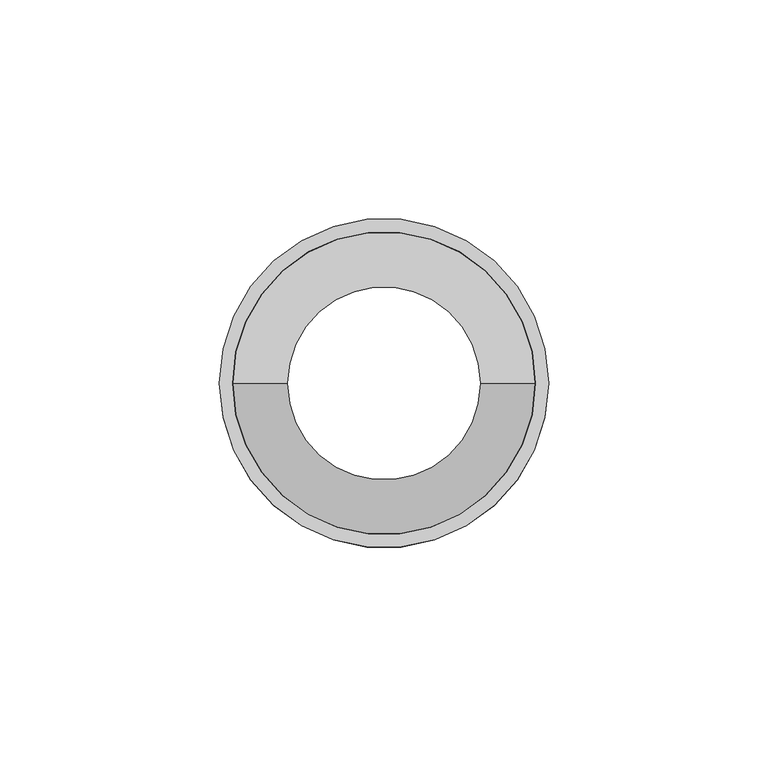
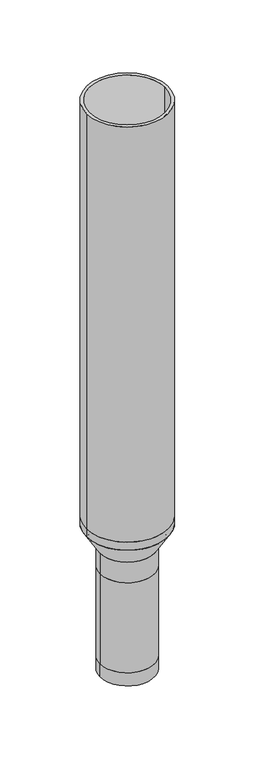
"""IFC4 building model written with IfcOpenShell, lengths in millimetres: pipe fitting geometry, Superdrain Concealed Trap extension : Superdrain Concealed Trap extension DN 50."""

from ifc_helpers import new_model, si_unit, point, frame, origin, origin_with_axes, origin_2d, place, context, project, spatial, polyline, circle_curve, trimmed, segment, composite_curve, outline, extrude, source, transform, mapped, element, save
from ifc_brep_helpers import plane_surface, revolved_surface, advanced_brep


def pipe_fitting_c942d72f(model_context):
    return source(origin(), model_context, "Body", "SolidModel", [
        advanced_brep(
        [(37.5, 0.0, 140.0), (-37.5, 0.0, 140.0), (-34.5, 0.0, 140.0), (34.5, 0.0, 140.0), (25.0, 0.0, 120.0), (-25.0, 0.0, 120.0), (22.0, 0.0, 120.0), (-22.0, 0.0, 120.0)],
        [
            (0, 1, circle_curve(frame((0.0, 0.0, 140.0), z_axis=(0.0, 0.0, 1.0), x_axis=(-1.0, 0.0, 0.0)), 37.5)),
            (1, 2),
            (2, 3, circle_curve(frame((0.0, 0.0, 140.0), z_axis=(0.0, 0.0, -1.0), x_axis=(-1.0, 0.0, 0.0)), 34.5)),
            (3, 0),
            (1, 0, circle_curve(frame((0.0, 0.0, 140.0), z_axis=(0.0, 0.0, 1.0), x_axis=(-1.0, 0.0, 0.0)), 37.5)),
            (3, 2, circle_curve(frame((0.0, 0.0, 140.0), z_axis=(0.0, 0.0, -1.0), x_axis=(-1.0, 0.0, 0.0)), 34.5)),
            (4, 5, circle_curve(frame((0.0, 0.0, 120.0), z_axis=(0.0, 0.0, 1.0), x_axis=(-1.0, 0.0, 0.0)), 25.0)),
            (5, 1),
            (0, 4),
            (5, 4, circle_curve(frame((0.0, 0.0, 120.0), z_axis=(0.0, 0.0, 1.0), x_axis=(-1.0, 0.0, 0.0)), 25.0)),
            (6, 7, circle_curve(frame((0.0, 0.0, 120.0), z_axis=(0.0, 0.0, 1.0), x_axis=(-1.0, 0.0, 0.0)), 22.0)),
            (7, 5),
            (4, 6),
            (7, 6, circle_curve(frame((0.0, 0.0, 120.0), z_axis=(0.0, 0.0, 1.0), x_axis=(-1.0, 0.0, 0.0)), 22.0)),
            (2, 7),
            (6, 3),
        ],
        [
            plane_surface(frame((0.0, 0.0, 140.0), z_axis=(0.0, 0.0, 1.0), x_axis=(-1.0, 0.0, 0.0))),
            revolved_surface(polyline([(-37.5, 0.0, 140.0), (-25.0, 0.0, 120.0)]), (0.0, 0.0, -78.0), (0.0, 0.0, -1.0)),
            plane_surface(frame((0.0, 0.0, 120.0), z_axis=(0.0, 0.0, -1.0), x_axis=(-1.0, 0.0, 0.0))),
            revolved_surface(polyline([(-22.0, 0.0, 120.0), (-34.5, 0.0, 140.0)]), (0.0, 0.0, -78.0), (0.0, 0.0, -1.0)),
        ],
        [
            (0, [[1, 2, 3, 4]]),
            (0, [[5, -4, 6, -2]]),
            (1, [[7, 8, -1, 9]]),
            (1, [[10, -9, -5, -8]]),
            (2, [[11, 12, -7, 13]]),
            (2, [[14, -13, -10, -12]]),
            (3, [[-3, 15, -11, 16]]),
            (3, [[-6, -16, -14, -15]]),
        ],
    ),
        extrude(outline(composite_curve([segment(trimmed(circle_curve(origin_2d(), 37.5), [point((37.5, 0.0))], [point((-37.5, 0.0))], False, "CARTESIAN"), True, "CONTINUOUS"), segment(trimmed(circle_curve(origin_2d(), 37.5), [point((-37.5, 0.0))], [point((37.5, 0.0))], False, "CARTESIAN"), True, "CONTINUOUS")], self_intersect=False), holes=[composite_curve([segment(trimmed(circle_curve(origin_2d(), 34.5), [point((34.5, 0.0))], [point((-34.5, 0.0))], True, "CARTESIAN"), True, "CONTINUOUS"), segment(trimmed(circle_curve(origin_2d(), 34.5), [point((-34.5, 0.0))], [point((34.5, 0.0))], True, "CARTESIAN"), True, "CONTINUOUS")], self_intersect=False)]), frame((0.0, 0.0, 148.0), z_axis=(0.0, 0.0, 1.0), x_axis=(1.0, 0.0, 0.0)), (0.0, 0.0, 1.0), 402.0),
        extrude(outline(composite_curve([segment(trimmed(circle_curve(origin_2d(), 37.5), [point((37.5, 0.0))], [point((-37.5, 0.0))], False, "CARTESIAN"), True, "CONTINUOUS"), segment(trimmed(circle_curve(origin_2d(), 37.5), [point((-37.5, 0.0))], [point((37.5, 0.0))], False, "CARTESIAN"), True, "CONTINUOUS")], self_intersect=False), holes=[composite_curve([segment(trimmed(circle_curve(origin_2d(), 34.5), [point((34.5, 0.0))], [point((-34.5, 0.0))], True, "CARTESIAN"), True, "CONTINUOUS"), segment(trimmed(circle_curve(origin_2d(), 34.5), [point((-34.5, 0.0))], [point((34.5, 0.0))], True, "CARTESIAN"), True, "CONTINUOUS")], self_intersect=False)]), frame((0.0, 0.0, 140.0), z_axis=(0.0, 0.0, 1.0), x_axis=(1.0, 0.0, 0.0)), (0.0, 0.0, 1.0), 8.0),
        extrude(outline(composite_curve([segment(trimmed(circle_curve(origin_2d(), 25.0), [point((25.0, 0.0))], [point((-25.0, 0.0))], False, "CARTESIAN"), True, "CONTINUOUS"), segment(trimmed(circle_curve(origin_2d(), 25.0), [point((-25.0, 0.0))], [point((25.0, 0.0))], False, "CARTESIAN"), True, "CONTINUOUS")], self_intersect=False), holes=[composite_curve([segment(trimmed(circle_curve(origin_2d(), 22.0), [point((22.0, 0.0))], [point((-22.0, 0.0))], True, "CARTESIAN"), True, "CONTINUOUS"), segment(trimmed(circle_curve(origin_2d(), 22.0), [point((-22.0, 0.0))], [point((22.0, 0.0))], True, "CARTESIAN"), True, "CONTINUOUS")], self_intersect=False)]), frame((0.0, 0.0, 100.0), z_axis=(0.0, 0.0, 1.0), x_axis=(1.0, 0.0, 0.0)), (0.0, 0.0, 1.0), 20.0),
        extrude(outline(composite_curve([segment(trimmed(circle_curve(origin_2d(), 25.0), [point((25.0, 0.0))], [point((-25.0, 0.0))], False, "CARTESIAN"), True, "CONTINUOUS"), segment(trimmed(circle_curve(origin_2d(), 25.0), [point((-25.0, 0.0))], [point((25.0, 0.0))], False, "CARTESIAN"), True, "CONTINUOUS")], self_intersect=False), holes=[composite_curve([segment(trimmed(circle_curve(origin_2d(), 22.0), [point((22.0, 0.0))], [point((-22.0, 0.0))], True, "CARTESIAN"), True, "CONTINUOUS"), segment(trimmed(circle_curve(origin_2d(), 22.0), [point((-22.0, 0.0))], [point((22.0, 0.0))], True, "CARTESIAN"), True, "CONTINUOUS")], self_intersect=False)]), frame((0.0, 0.0, 12.7902896), z_axis=(0.0, 0.0, 1.0), x_axis=(1.0, 0.0, 0.0)), (0.0, 0.0, 1.0), 87.2097104),
        extrude(outline(composite_curve([segment(trimmed(circle_curve(origin_2d(), 25.0), [point((-25.0, 0.0))], [point((25.0, 0.0))], False, "CARTESIAN"), True, "CONTINUOUS"), segment(trimmed(circle_curve(origin_2d(), 25.0), [point((25.0, 0.0))], [point((-25.0, 0.0))], False, "CARTESIAN"), True, "CONTINUOUS")], self_intersect=False), holes=[composite_curve([segment(trimmed(circle_curve(origin_2d(), 22.0), [point((-22.0, 0.0))], [point((22.0, 0.0))], True, "CARTESIAN"), True, "CONTINUOUS"), segment(trimmed(circle_curve(origin_2d(), 22.0), [point((22.0, 0.0))], [point((-22.0, 0.0))], True, "CARTESIAN"), True, "CONTINUOUS")], self_intersect=False)]), origin_with_axes(), (0.0, 0.0, 1.0), 12.7902896),
    ])


if __name__ == "__main__":
    model = new_model("IFC4")
    model_context = context("Model", 3, world=origin())
    ifc_project = project(units=[si_unit("LENGTHUNIT", "METRE", prefix="MILLI")], contexts=[model_context])
    site = spatial("IfcSite", under=ifc_project)
    building = spatial("IfcBuilding", under=site)
    placement = place(None, origin())
    pipe_fitting_shape = pipe_fitting_c942d72f(model_context)
    element("IfcPipeFitting", 1, ObjectType="Superdrain Concealed Trap extension : Superdrain Concealed Trap extension DN 50", at=placement, inside=building, context=model_context, shape_type="MappedRepresentation", body=[
        mapped(pipe_fitting_shape, transform((0.0, 0.0, 0.0), x_axis=(1.0, 0.0, 0.0), y_axis=(0.0, 1.0, 0.0), z_axis=(0.0, 0.0, 1.0))),
    ])
    save(model, "model.ifc")
